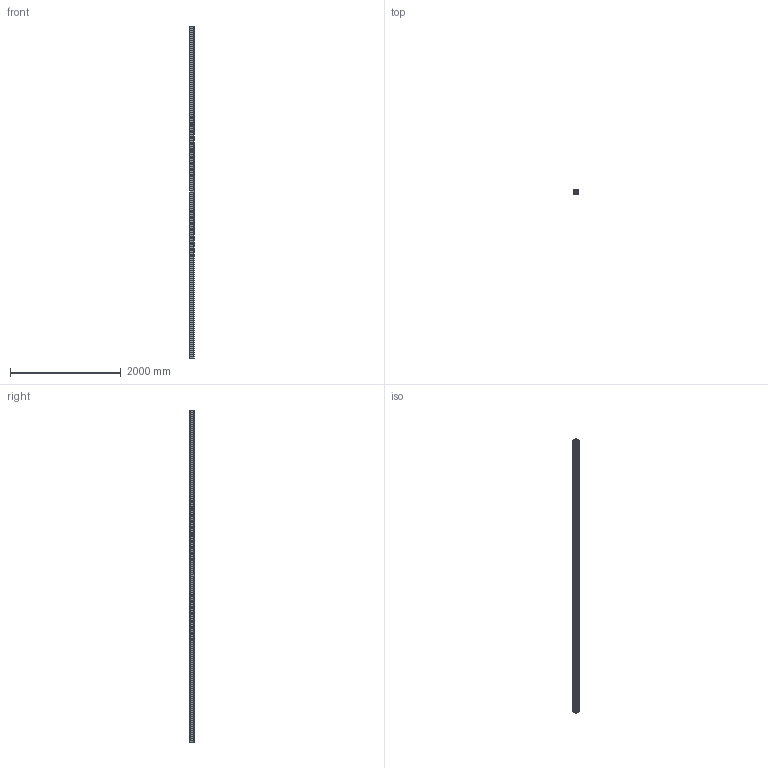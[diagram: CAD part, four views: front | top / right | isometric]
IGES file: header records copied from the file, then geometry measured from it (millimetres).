
Start section: SolidWorks IGES file using analytic representation for surfaces
Global section: file name: C:\Users\Ahmed\Desktop\Aluminium profiles\28-29-30-31\90x90 Slot 10.IGS; native system: SolidWorks 2016; preprocessor: SolidWorks 2016; author: Ahmed; date: 170810.020132; units: millimetre
Bounding box: 90 x 90 x 6000 mm (x, y, z)
Surface area: 8902370.3 mm2 (no closed solid volume)
Topology: 0 solids, 0 shells, 686 faces, 5963 edges, 5963 vertices
Faces by surface type: bspline 470, revolution 216
